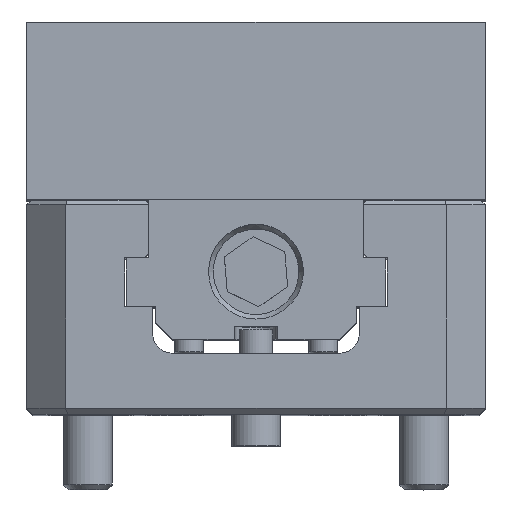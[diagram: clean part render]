
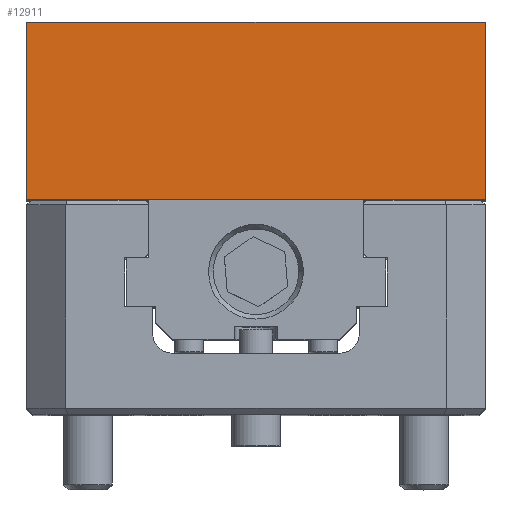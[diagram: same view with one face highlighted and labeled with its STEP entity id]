
A CAD part, top view. The second image highlights one B-rep face of the part: STEP entity #12911.
In plain terms, the highlighted planar face has unit normal (0, 0, 1) as drawn and (-1, 0, 0) by its records, which use the part's own axes.
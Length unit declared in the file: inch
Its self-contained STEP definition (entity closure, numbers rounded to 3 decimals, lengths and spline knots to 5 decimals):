
#97 = CARTESIAN_POINT ( 'NONE',  ( -1.95, 0., 1.47638 ) ) ;
#269 = DIRECTION ( 'NONE',  ( 0., 0., -1. ) ) ;
#398 = EDGE_CURVE ( 'NONE', #13077, #14830, #8828, .T. ) ;
#1337 = DIRECTION ( 'NONE',  ( 0., 0., -1. ) ) ;
#1484 = LINE ( 'NONE', #97, #13031 ) ;
#1583 = DIRECTION ( 'NONE',  ( 0., -1., 0. ) ) ;
#2651 = LINE ( 'NONE', #5094, #8975 ) ;
#2843 = CARTESIAN_POINT ( 'NONE',  ( -1.95, 1.14173, 1.47638 ) ) ;
#3065 = AXIS2_PLACEMENT_3D ( 'NONE', #11197, #12346, #1337 ) ;
#3231 = CARTESIAN_POINT ( 'NONE',  ( -1.95, 1.14173, 1.47638 ) ) ;
#5094 = CARTESIAN_POINT ( 'NONE',  ( -1.95, 0., -1.47638 ) ) ;
#5189 = ORIENTED_EDGE ( 'NONE', *, *, #398, .F. ) ;
#5674 = ORIENTED_EDGE ( 'NONE', *, *, #7076, .T. ) ;
#6233 = DIRECTION ( 'NONE',  ( 0., -1., 0. ) ) ;
#6731 = LINE ( 'NONE', #3231, #10583 ) ;
#7076 = EDGE_CURVE ( 'NONE', #13077, #11837, #6731, .T. ) ;
#7129 = ORIENTED_EDGE ( 'NONE', *, *, #13255, .T. ) ;
#7395 = PLANE ( 'NONE',  #3065 ) ;
#7633 = EDGE_CURVE ( 'NONE', #14830, #8286, #1484, .T. ) ;
#8286 = VERTEX_POINT ( 'NONE', #11997 ) ;
#8684 = FACE_OUTER_BOUND ( 'NONE', #12407, .T. ) ;
#8828 = LINE ( 'NONE', #13078, #11937 ) ;
#8975 = VECTOR ( 'NONE', #6233, 39.37008 ) ;
#10195 = ORIENTED_EDGE ( 'NONE', *, *, #7633, .F. ) ;
#10583 = VECTOR ( 'NONE', #13168, 39.37008 ) ;
#11068 = CARTESIAN_POINT ( 'NONE',  ( -1.95, 1.14173, -1.47638 ) ) ;
#11197 = CARTESIAN_POINT ( 'NONE',  ( -1.95, 0., 1.47638 ) ) ;
#11837 = VERTEX_POINT ( 'NONE', #11068 ) ;
#11845 = CARTESIAN_POINT ( 'NONE',  ( -1.95, 0., 1.47638 ) ) ;
#11937 = VECTOR ( 'NONE', #1583, 39.37008 ) ;
#11997 = CARTESIAN_POINT ( 'NONE',  ( -1.95, 0., -1.47638 ) ) ;
#12346 = DIRECTION ( 'NONE',  ( 1., 0., 0. ) ) ;
#12407 = EDGE_LOOP ( 'NONE', ( #7129, #10195, #5189, #5674 ) ) ;
#12911 = ADVANCED_FACE ( 'NONE', ( #8684 ), #7395, .F. ) ;
#13031 = VECTOR ( 'NONE', #269, 39.37008 ) ;
#13077 = VERTEX_POINT ( 'NONE', #2843 ) ;
#13078 = CARTESIAN_POINT ( 'NONE',  ( -1.95, 0., 1.47638 ) ) ;
#13168 = DIRECTION ( 'NONE',  ( 0., 0., -1. ) ) ;
#13255 = EDGE_CURVE ( 'NONE', #11837, #8286, #2651, .T. ) ;
#14830 = VERTEX_POINT ( 'NONE', #11845 ) ;
